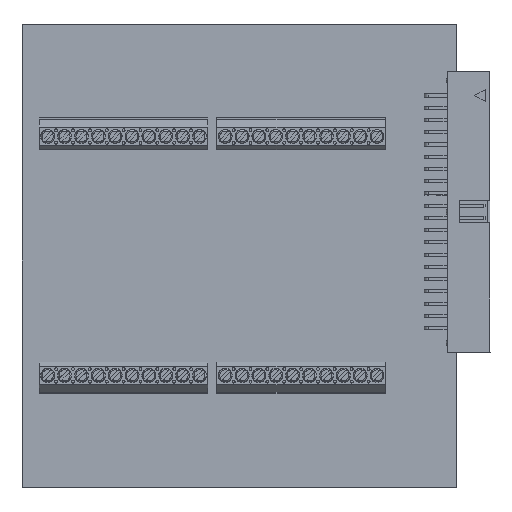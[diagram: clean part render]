
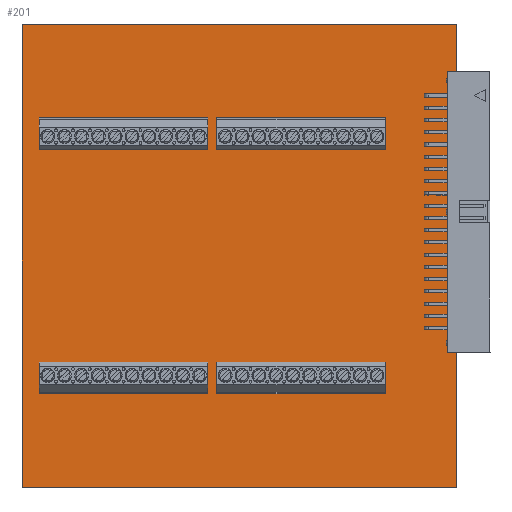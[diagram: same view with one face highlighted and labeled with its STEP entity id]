
A CAD part, top view. The second image highlights one B-rep face of the part: STEP entity #201.
In plain terms, the highlighted planar face has unit normal (0, 0, 1).
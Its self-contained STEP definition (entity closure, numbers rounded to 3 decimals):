
#72 = VERTEX_POINT('',#73);
#73 = CARTESIAN_POINT('',(0.,95.885,0.274));
#79 = EDGE_CURVE('',#72,#80,#82,.T.);
#80 = VERTEX_POINT('',#81);
#81 = CARTESIAN_POINT('',(90.17,95.885,0.274));
#82 = LINE('',#83,#84);
#83 = CARTESIAN_POINT('',(0.,95.885,0.274));
#84 = VECTOR('',#85,1.);
#85 = DIRECTION('',(1.,0.,0.));
#110 = EDGE_CURVE('',#80,#111,#113,.T.);
#111 = VERTEX_POINT('',#112);
#112 = CARTESIAN_POINT('',(90.17,0.,0.274));
#113 = LINE('',#114,#115);
#114 = CARTESIAN_POINT('',(90.17,95.885,0.274));
#115 = VECTOR('',#116,1.);
#116 = DIRECTION('',(0.,-1.,0.));
#141 = EDGE_CURVE('',#111,#142,#144,.T.);
#142 = VERTEX_POINT('',#143);
#143 = CARTESIAN_POINT('',(0.,0.,0.274));
#144 = LINE('',#145,#146);
#145 = CARTESIAN_POINT('',(90.17,0.,0.274));
#146 = VECTOR('',#147,1.);
#147 = DIRECTION('',(-1.,0.,0.));
#172 = EDGE_CURVE('',#142,#72,#173,.T.);
#173 = LINE('',#174,#175);
#174 = CARTESIAN_POINT('',(0.,0.,0.274));
#175 = VECTOR('',#176,1.);
#176 = DIRECTION('',(0.,1.,0.));
#201 = ADVANCED_FACE('',(#202),#208,.F.);
#202 = FACE_BOUND('',#203,.F.);
#203 = EDGE_LOOP('',(#204,#205,#206,#207));
#204 = ORIENTED_EDGE('',*,*,#79,.T.);
#205 = ORIENTED_EDGE('',*,*,#110,.T.);
#206 = ORIENTED_EDGE('',*,*,#141,.T.);
#207 = ORIENTED_EDGE('',*,*,#172,.T.);
#208 = PLANE('',#209);
#209 = AXIS2_PLACEMENT_3D('',#210,#211,#212);
#210 = CARTESIAN_POINT('',(45.085,47.943,0.274));
#211 = DIRECTION('',(-0.,-0.,-1.));
#212 = DIRECTION('',(-1.,0.,0.));
